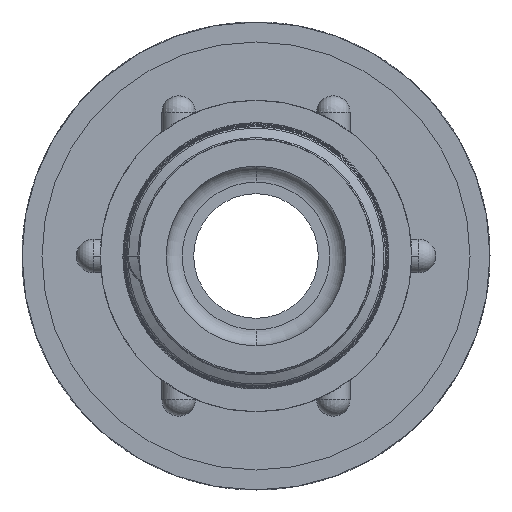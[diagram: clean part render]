
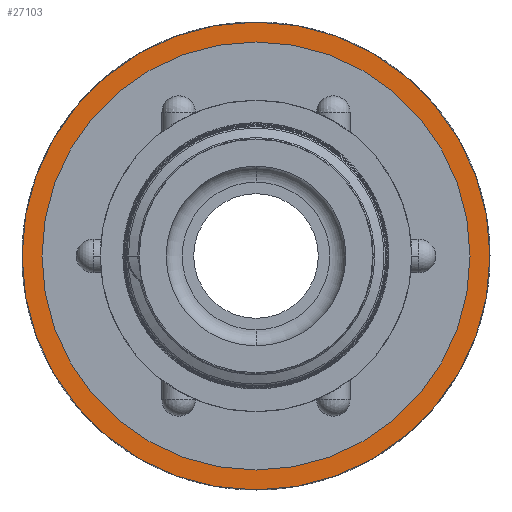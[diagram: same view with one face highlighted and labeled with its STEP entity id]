
A CAD part, left-side view. The second image highlights one B-rep face of the part: STEP entity #27103.
In plain terms, the highlighted planar face has unit normal (-1, 0, 0).
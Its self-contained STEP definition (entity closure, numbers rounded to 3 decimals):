
#570 = EDGE_CURVE ( 'NONE', #16948, #16958, #28559, .T. ) ;
#691 = EDGE_LOOP ( 'NONE', ( #18992, #18994 ) ) ;
#696 = EDGE_LOOP ( 'NONE', ( #18988, #18990 ) ) ;
#16948 = VERTEX_POINT ( 'NONE', #17824 ) ;
#16958 = VERTEX_POINT ( 'NONE', #17689 ) ;
#17588 = VERTEX_POINT ( 'NONE', #18207 ) ;
#17590 = VERTEX_POINT ( 'NONE', #18208 ) ;
#17689 = CARTESIAN_POINT ( 'NONE',  ( 0., 0., -29.3 ) ) ;
#17824 = CARTESIAN_POINT ( 'NONE',  ( 0., 0., 29.3 ) ) ;
#18207 = CARTESIAN_POINT ( 'NONE',  ( 0., 0., 25. ) ) ;
#18208 = CARTESIAN_POINT ( 'NONE',  ( 0., 0., -25. ) ) ;
#18988 = ORIENTED_EDGE ( 'NONE', *, *, #26703, .F. ) ;
#18990 = ORIENTED_EDGE ( 'NONE', *, *, #26681, .F. ) ;
#18992 = ORIENTED_EDGE ( 'NONE', *, *, #570, .T. ) ;
#18994 = ORIENTED_EDGE ( 'NONE', *, *, #26973, .T. ) ;
#21431 = CARTESIAN_POINT ( 'NONE',  ( 0., 0., 0. ) ) ;
#21432 = DIRECTION ( 'NONE',  ( -1., 0., 0. ) ) ;
#21433 = DIRECTION ( 'NONE',  ( 0., 0., 1. ) ) ;
#21692 = CARTESIAN_POINT ( 'NONE',  ( 0., 0., 0. ) ) ;
#21693 = DIRECTION ( 'NONE',  ( -1., 0., 0. ) ) ;
#21694 = DIRECTION ( 'NONE',  ( 0., 0., 1. ) ) ;
#23302 = CARTESIAN_POINT ( 'NONE',  ( 0., 0., 0. ) ) ;
#23303 = DIRECTION ( 'NONE',  ( -1., 0., 0. ) ) ;
#23304 = DIRECTION ( 'NONE',  ( 0., 0., 1. ) ) ;
#24076 = CARTESIAN_POINT ( 'NONE',  ( 0., 0., -25. ) ) ;
#24084 = FACE_BOUND ( 'NONE', #696, .T. ) ;
#24085 = FACE_OUTER_BOUND ( 'NONE', #691, .T. ) ;
#24086 = PLANE ( 'NONE',  #25255 ) ;
#24088 = DIRECTION ( 'NONE',  ( 1., 0., 0. ) ) ;
#24089 = DIRECTION ( 'NONE',  ( 0., 0., -1. ) ) ;
#25255 = AXIS2_PLACEMENT_3D ( 'NONE', #24076, #24088, #24089 ) ;
#26681 = EDGE_CURVE ( 'NONE', #17590, #17588, #29251, .T. ) ;
#26703 = EDGE_CURVE ( 'NONE', #17588, #17590, #29259, .T. ) ;
#26973 = EDGE_CURVE ( 'NONE', #16958, #16948, #29406, .T. ) ;
#27103 = ADVANCED_FACE ( 'NONE', ( #24084, #24085 ), #24086, .F. ) ;
#28559 = CIRCLE ( 'NONE', #28561, 29.3 ) ;
#28561 = AXIS2_PLACEMENT_3D ( 'NONE', #30615, #30616, #30617 ) ;
#29251 = CIRCLE ( 'NONE', #29253, 25. ) ;
#29253 = AXIS2_PLACEMENT_3D ( 'NONE', #21431, #21432, #21433 ) ;
#29259 = CIRCLE ( 'NONE', #29262, 25. ) ;
#29262 = AXIS2_PLACEMENT_3D ( 'NONE', #21692, #21693, #21694 ) ;
#29406 = CIRCLE ( 'NONE', #29408, 29.3 ) ;
#29408 = AXIS2_PLACEMENT_3D ( 'NONE', #23302, #23303, #23304 ) ;
#30615 = CARTESIAN_POINT ( 'NONE',  ( 0., 0., 0. ) ) ;
#30616 = DIRECTION ( 'NONE',  ( -1., 0., 0. ) ) ;
#30617 = DIRECTION ( 'NONE',  ( 0., 0., 1. ) ) ;
